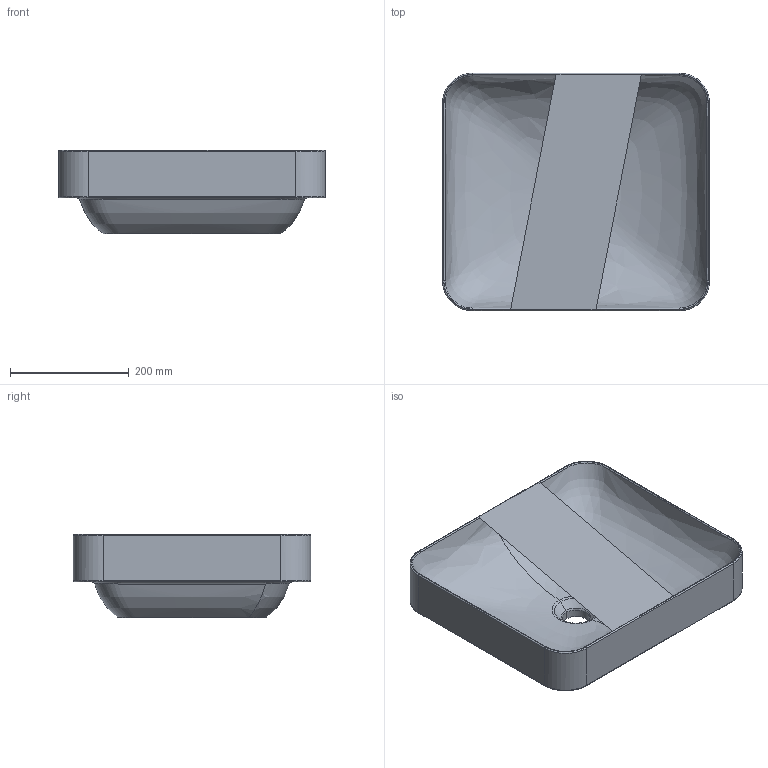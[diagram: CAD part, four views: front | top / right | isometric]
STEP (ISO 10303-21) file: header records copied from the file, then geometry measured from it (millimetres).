
FILE_DESCRIPTION(/* description */ (''),/* implementation_level */ '2;1');
FILE_NAME(/* name */ 'ESO45',/* time_stamp */ '2017-12-11T12:34:07+01:00',/* author */ (''),/* organization */ (''),/* preprocessor_version */ 'ST-DEVELOPER v15',/* originating_system */ '',/* authorisation */ '');
FILE_SCHEMA (('AUTOMOTIVE_DESIGN'));
Length unit declared in the file: millimetre
Products named in the file (1): Document
Bounding box: 450 x 400 x 140 mm (x, y, z)
Volume: 7782236 mm3; surface area: 587544.6 mm2
Topology: 1 solids, 1 shells, 55 faces, 154 edges, 98 vertices
Faces by surface type: bspline 48, plane 7
Entity records: 17322 total; most frequent: CARTESIAN_POINT 16399, ORIENTED_EDGE 308, EDGE_CURVE 154, B_SPLINE_CURVE_WITH_KNOTS 111, VERTEX_POINT 102, EDGE_LOOP 58, ADVANCED_FACE 55, FACE_OUTER_BOUND 55
